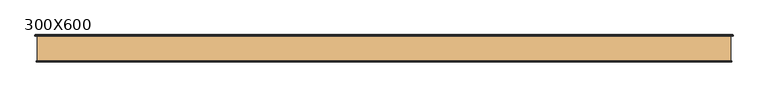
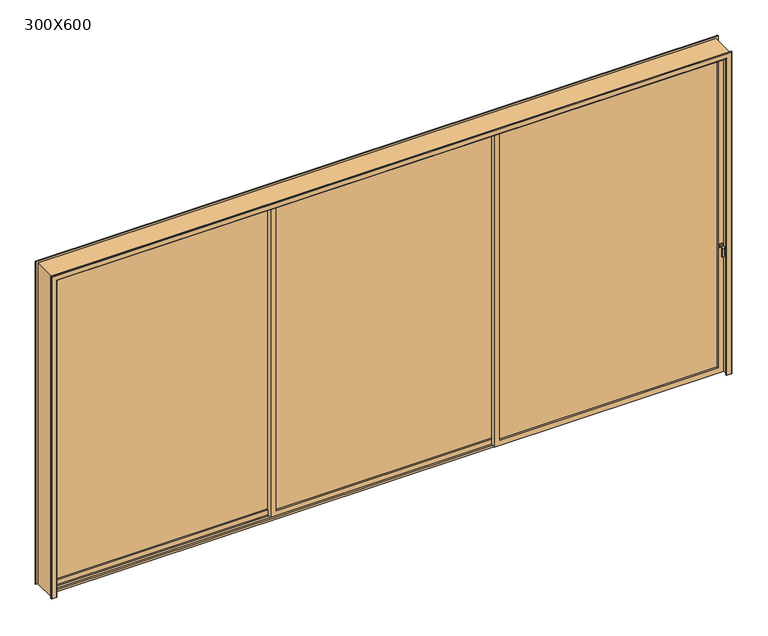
"""IFC4 building model written with IfcOpenShell, lengths in millimetres: door geometry, porta de correr uma direção : 300X600."""

from ifc_helpers import new_model, si_unit, point, frame, frame_2d, origin, place, context, project, spatial, polyline, circle_curve, ellipse_curve, trimmed, segment, composite_curve, outline, extrude, source, transform, mapped, element, save
from ifc_brep_helpers import plane_surface, cylinder_surface, advanced_brep


def door_300x600_54ae6d1d(model_context):
    return source(origin(), model_context, "Body", "SolidModel", [
        extrude(outline(composite_curve([segment(polyline([(-65.0, 1202.2993755), (-65.0, 1198.1441784), (-83.2817948, 1198.1441784)]), True, "CONTINUOUS"), segment(trimmed(circle_curve(frame_2d((-83.2817948, 1188.2817948)), 9.8623836), [point((-83.2817948, 1198.1441784))], [point((-93.1441784, 1188.2817948))], True, "CARTESIAN"), True, "CONTINUOUS"), segment(polyline([(-93.1441784, 1188.2817948), (-93.1441784, 1113.2817948), (-97.2993755, 1113.2817948), (-97.2993755, 1188.2817948)]), True, "CONTINUOUS"), segment(trimmed(circle_curve(frame_2d((-83.2817948, 1188.2817948)), 14.0175808), [point((-97.2993755, 1188.2817948))], [point((-83.2817948, 1202.2993755))], False, "CARTESIAN"), True, "CONTINUOUS"), segment(polyline([(-83.2817948, 1202.2993755), (-65.0, 1202.2993755)]), True, "CONTINUOUS")], self_intersect=False)), frame((2964.7783411, 0.0, 0.0), z_axis=(1.0, 0.0, 0.0), x_axis=(0.0, 1.0, 0.0)), (0.0, 0.0, 1.0), 21.25),
        extrude(outline(polyline([(2990.0, -65.0), (2960.0, -65.0), (2960.0, -60.0), (2990.0, -60.0), (2990.0, -65.0)])), frame((0.0, 0.0, 1185.0), z_axis=(0.0, 0.0, 1.0), x_axis=(1.0, 0.0, 0.0)), (0.0, 0.0, 1.0), 30.0),
        extrude(outline(polyline([(2950.0, -35.0), (2950.0, -45.0), (1000.0, -45.0), (1000.0, -35.0), (2950.0, -35.0)])), frame((0.0, 0.0, 50.0), z_axis=(0.0, 0.0, 1.0), x_axis=(1.0, 0.0, 0.0)), (0.0, 0.0, 1.0), 2900.0),
        extrude(outline(polyline([(3000.0, 3000.0), (3000.0, 950.0), (0.0, 950.0), (0.0, 3000.0), (3000.0, 3000.0)]), holes=[polyline([(2950.0, 2950.0), (50.0, 2950.0), (50.0, 1000.0), (2950.0, 1000.0), (2950.0, 2950.0)])]), frame((0.0, -60.0, 0.0), z_axis=(0.0, 1.0, 0.0), x_axis=(0.0, 0.0, 1.0)), (0.0, 0.0, 1.0), 40.0),
        extrude(outline(polyline([(975.0, 5.0), (975.0, -5.0), (-975.0, -5.0), (-975.0, 5.0), (975.0, 5.0)])), frame((0.0, 0.0, 50.0), z_axis=(0.0, 0.0, 1.0), x_axis=(1.0, 0.0, 0.0)), (0.0, 0.0, 1.0), 2900.0),
        extrude(outline(polyline([(3000.0, 1025.0), (3000.0, -1025.0), (0.0, -1025.0), (0.0, 1025.0), (3000.0, 1025.0)]), holes=[polyline([(2950.0, 975.0), (50.0, 975.0), (50.0, -975.0), (2950.0, -975.0), (2950.0, 975.0)])]), frame((0.0, -20.0, 0.0), z_axis=(0.0, 1.0, 0.0), x_axis=(0.0, 0.0, 1.0)), (0.0, 0.0, 1.0), 40.0),
        extrude(outline(polyline([(-1000.0, 45.0), (-1000.0, 35.0), (-2950.0, 35.0), (-2950.0, 45.0), (-1000.0, 45.0)])), frame((0.0, 0.0, 50.0), z_axis=(0.0, 0.0, 1.0), x_axis=(1.0, 0.0, 0.0)), (0.0, 0.0, 1.0), 2900.0),
        extrude(outline(polyline([(3000.0, -950.0), (3000.0, -3000.0), (0.0, -3000.0), (0.0, -950.0), (3000.0, -950.0)]), holes=[polyline([(2950.0, -1000.0), (50.0, -1000.0), (50.0, -2950.0), (2950.0, -2950.0), (2950.0, -1000.0)])]), frame((0.0, 20.0, 0.0), z_axis=(0.0, 1.0, 0.0), x_axis=(0.0, 0.0, 1.0)), (0.0, 0.0, 1.0), 40.0),
        advanced_brep(
        [(-3040.0, -110.0, 0.0), (-2990.0, -110.0, 0.0), (-2990.0, -115.0, 0.0), (-2995.0, -120.0, 0.0), (-3035.0, -120.0, 0.0), (-3040.0, -115.0, 0.0), (-3040.0, -110.0, 3040.0), (3040.0, -110.0, 3040.0), (3040.0, -110.0, 0.0), (2990.0, -110.0, 0.0), (2990.0, -110.0, 2990.0), (-2990.0, -110.0, 2990.0), (-2990.0, -115.0, 2990.0), (-2995.0, -120.0, 2995.0), (2995.0, -120.0, 2995.0), (2995.0, -120.0, 0.0), (3035.0, -120.0, 0.0), (3035.0, -120.0, 3035.0), (-3035.0, -120.0, 3035.0), (-3040.0, -115.0, 3040.0), (3040.0, -115.0, 3040.0), (3040.0, -115.0, 0.0), (2990.0, -115.0, 0.0), (2990.0, -115.0, 2990.0)],
        [
            (0, 1),
            (1, 2),
            (2, 3, circle_curve(frame((-2995.0, -115.0, 0.0), z_axis=(0.0, 0.0, -1.0), x_axis=(0.0, -1.0, 0.0)), 5.0)),
            (3, 4),
            (4, 5, circle_curve(frame((-3035.0, -115.0, 0.0), z_axis=(0.0, 0.0, -1.0), x_axis=(0.0, -1.0, 0.0)), 5.0)),
            (5, 0),
            (0, 6),
            (6, 7),
            (7, 8),
            (8, 9),
            (9, 10),
            (10, 11),
            (11, 1),
            (11, 12),
            (12, 2),
            (12, 13, ellipse_curve(frame((-2995.0, -115.0, 2995.0), z_axis=(-0.7071067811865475, 0.0, -0.7071067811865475), x_axis=(0.7071067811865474, 0.0, -0.7071067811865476)), 7.0710678, 5.0)),
            (13, 3),
            (13, 14),
            (14, 15),
            (15, 16),
            (16, 17),
            (17, 18),
            (18, 4),
            (18, 19, ellipse_curve(frame((-3035.0, -115.0, 3035.0), z_axis=(-0.7071067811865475, 0.0, -0.7071067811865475), x_axis=(0.7071067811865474, 0.0, -0.7071067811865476)), 7.0710678, 5.0)),
            (19, 5),
            (19, 6),
            (7, 20),
            (20, 21),
            (21, 8),
            (21, 16, circle_curve(frame((3035.0, -115.0, 0.0), z_axis=(0.0, 0.0, -1.0), x_axis=(0.0, -1.0, 0.0)), 5.0)),
            (15, 22, circle_curve(frame((2995.0, -115.0, 0.0), z_axis=(0.0, 0.0, -1.0), x_axis=(0.0, -1.0, 0.0)), 5.0)),
            (22, 9),
            (23, 10),
            (22, 23),
            (14, 23, ellipse_curve(frame((2995.0, -115.0, 2995.0), z_axis=(0.7071067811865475, 0.0, -0.7071067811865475), x_axis=(0.7071067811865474, 0.0, 0.7071067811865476)), 7.0710678, 5.0)),
            (20, 17, ellipse_curve(frame((3035.0, -115.0, 3035.0), z_axis=(0.7071067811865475, 0.0, -0.7071067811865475), x_axis=(0.7071067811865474, 0.0, 0.7071067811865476)), 7.0710678, 5.0)),
            (19, 20),
            (23, 12),
        ],
        [
            plane_surface(frame((-3030.0, -110.0, 0.0), z_axis=(0.0, 0.0, -1.0), x_axis=(0.0, -1.0, 0.0))),
            plane_surface(frame((-3040.0, -110.0, 0.0), z_axis=(0.0, 1.0, 0.0), x_axis=(0.0, 0.0, 1.0))),
            plane_surface(frame((-2990.0, -110.0, 0.0), z_axis=(1.0, 0.0, 0.0), x_axis=(0.0, 0.0, 1.0))),
            cylinder_surface(frame((-2995.0, -115.0, 0.0), z_axis=(0.0, 0.0, -1.0), x_axis=(0.0, -1.0, 0.0)), 5.0),
            plane_surface(frame((-2995.0, -120.0, 0.0), z_axis=(0.0, -1.0, 0.0), x_axis=(0.0, 0.0, 1.0))),
            cylinder_surface(frame((-3035.0, -115.0, 0.0), z_axis=(0.0, 0.0, -1.0), x_axis=(0.0, -1.0, 0.0)), 5.0),
            plane_surface(frame((-3040.0, -115.0, 0.0), z_axis=(-1.0, 0.0, 0.0), x_axis=(0.0, 0.0, 1.0))),
            plane_surface(frame((3040.0, -115.0, 3040.0), z_axis=(1.0, 0.0, 0.0), x_axis=(0.0, 0.0, -1.0))),
            plane_surface(frame((3030.0, -110.0, 0.0), z_axis=(0.0, 0.0, -1.0), x_axis=(0.0, -1.0, 0.0))),
            plane_surface(frame((2990.0, -110.0, 2990.0), z_axis=(-1.0, 0.0, 0.0), x_axis=(0.0, 0.0, -1.0))),
            cylinder_surface(frame((2995.0, -115.0, 3030.0), z_axis=(0.0, 0.0, 1.0), x_axis=(0.0, -1.0, 0.0)), 5.0),
            cylinder_surface(frame((3035.0, -115.0, 3030.0), z_axis=(0.0, 0.0, 1.0), x_axis=(0.0, -1.0, 0.0)), 5.0),
            plane_surface(frame((-3040.0, -115.0, 3040.0), z_axis=(0.0, 0.0, 1.0), x_axis=(1.0, 0.0, 0.0))),
            plane_surface(frame((-2990.0, -110.0, 2990.0), z_axis=(0.0, 0.0, -1.0), x_axis=(1.0, 0.0, 0.0))),
            cylinder_surface(frame((-3030.0, -115.0, 2995.0), z_axis=(-1.0, 0.0, 0.0), x_axis=(0.0, -1.0, 0.0)), 5.0),
            cylinder_surface(frame((-3030.0, -115.0, 3035.0), z_axis=(-1.0, 0.0, 0.0), x_axis=(0.0, -1.0, 0.0)), 5.0),
        ],
        [
            (0, [[1, 2, 3, 4, 5, 6]]),
            (1, [[-1, 7, 8, 9, 10, 11, 12, 13]]),
            (2, [[-2, -13, 14, 15]]),
            (3, [[-3, -15, 16, 17]]),
            (4, [[-4, -17, 18, 19, 20, 21, 22, 23]]),
            (5, [[-5, -23, 24, 25]]),
            (6, [[-6, -25, 26, -7]]),
            (7, [[27, 28, 29, -9]]),
            (8, [[-29, 30, -20, 31, 32, -10]]),
            (9, [[33, -11, -32, 34]]),
            (10, [[35, -34, -31, -19]]),
            (11, [[36, -21, -30, -28]]),
            (12, [[-26, 37, -27, -8]]),
            (13, [[-14, -12, -33, 38]]),
            (14, [[-16, -38, -35, -18]]),
            (15, [[-24, -22, -36, -37]]),
        ],
    ),
        advanced_brep(
        [(3050.0, 110.0, 0.0), (2995.0, 110.0, 0.0), (2995.0, 115.0, 0.0), (3000.0, 120.0, 0.0), (3044.1699538, 120.0, 0.0), (3050.0, 114.1699538, 0.0), (3050.0, 110.0, 3050.0), (-3050.0, 110.0, 3050.0), (-3050.0, 110.0, 0.0), (-2995.0, 110.0, 0.0), (-2995.0, 110.0, 2995.0), (2995.0, 110.0, 2995.0), (2995.0, 115.0, 2995.0), (3000.0, 120.0, 3000.0), (-3000.0, 120.0, 3000.0), (-3000.0, 120.0, 0.0), (-3044.1699538, 120.0, 0.0), (-3044.1699538, 120.0, 3044.1699538), (3044.1699538, 120.0, 3044.1699538), (3050.0, 114.1699538, 3050.0), (-3050.0, 114.1699538, 3050.0), (-3050.0, 114.1699538, 0.0), (-2995.0, 115.0, 0.0), (-2995.0, 115.0, 2995.0)],
        [
            (0, 1),
            (1, 2),
            (2, 3, circle_curve(frame((3000.0, 115.0, 0.0), z_axis=(0.0, 0.0, -1.0), x_axis=(0.0, -1.0, 0.0)), 5.0)),
            (3, 4),
            (4, 5, circle_curve(frame((3044.1699538, 114.1699538, 0.0), z_axis=(0.0, 0.0, -1.0), x_axis=(0.0, -1.0, 0.0)), 5.8300462)),
            (5, 0),
            (0, 6),
            (6, 7),
            (7, 8),
            (8, 9),
            (9, 10),
            (10, 11),
            (11, 1),
            (11, 12),
            (12, 2),
            (12, 13, ellipse_curve(frame((3000.0, 115.0, 3000.0), z_axis=(0.7071067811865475, 0.0, -0.7071067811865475), x_axis=(-0.7071067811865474, 0.0, -0.7071067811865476)), 7.0710678, 5.0)),
            (13, 3),
            (13, 14),
            (14, 15),
            (15, 16),
            (16, 17),
            (17, 18),
            (18, 4),
            (18, 19, ellipse_curve(frame((3044.1699538, 114.1699538, 3044.1699538), z_axis=(0.7071067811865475, 0.0, -0.7071067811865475), x_axis=(-0.7071067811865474, 0.0, -0.7071067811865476)), 8.2449304, 5.8300462)),
            (19, 5),
            (19, 6),
            (7, 20),
            (20, 21),
            (21, 8),
            (21, 16, circle_curve(frame((-3044.1699538, 114.1699538, 0.0), z_axis=(0.0, 0.0, -1.0), x_axis=(0.0, -1.0, 0.0)), 5.8300462)),
            (15, 22, circle_curve(frame((-3000.0, 115.0, 0.0), z_axis=(0.0, 0.0, -1.0), x_axis=(0.0, -1.0, 0.0)), 5.0)),
            (22, 9),
            (23, 10),
            (22, 23),
            (14, 23, ellipse_curve(frame((-3000.0, 115.0, 3000.0), z_axis=(-0.7071067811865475, 0.0, -0.7071067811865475), x_axis=(-0.7071067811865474, 0.0, 0.7071067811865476)), 7.0710678, 5.0)),
            (20, 17, ellipse_curve(frame((-3044.1699538, 114.1699538, 3044.1699538), z_axis=(-0.7071067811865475, 0.0, -0.7071067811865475), x_axis=(-0.7071067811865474, 0.0, 0.7071067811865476)), 8.2449304, 5.8300462)),
            (19, 20),
            (23, 12),
        ],
        [
            plane_surface(frame((3030.0, 110.0, 0.0), z_axis=(0.0, 0.0, -1.0), x_axis=(0.0, -1.0, 0.0))),
            plane_surface(frame((3050.0, 110.0, 0.0), z_axis=(0.0, -1.0, 0.0), x_axis=(0.0, 0.0, 1.0))),
            plane_surface(frame((2995.0, 110.0, 0.0), z_axis=(-1.0, 0.0, 0.0), x_axis=(0.0, 0.0, 1.0))),
            cylinder_surface(frame((3000.0, 115.0, 0.0), z_axis=(0.0, 0.0, -1.0), x_axis=(0.0, -1.0, 0.0)), 5.0),
            plane_surface(frame((3000.0, 120.0, 0.0), z_axis=(0.0, 1.0, 0.0), x_axis=(0.0, 0.0, 1.0))),
            cylinder_surface(frame((3044.1699538, 114.1699538, 0.0), z_axis=(0.0, 0.0, -1.0), x_axis=(0.0, -1.0, 0.0)), 5.8300462),
            plane_surface(frame((3050.0, 114.1699538, 0.0), z_axis=(1.0, 0.0, 0.0), x_axis=(0.0, 0.0, 1.0))),
            plane_surface(frame((-3050.0, 114.1699538, 3050.0), z_axis=(-1.0, 0.0, 0.0), x_axis=(0.0, 0.0, -1.0))),
            plane_surface(frame((-3030.0, 110.0, 0.0), z_axis=(0.0, 0.0, -1.0), x_axis=(0.0, -1.0, 0.0))),
            plane_surface(frame((-2995.0, 110.0, 2995.0), z_axis=(1.0, 0.0, 0.0), x_axis=(0.0, 0.0, -1.0))),
            cylinder_surface(frame((-3000.0, 115.0, 3030.0), z_axis=(0.0, 0.0, 1.0), x_axis=(0.0, -1.0, 0.0)), 5.0),
            cylinder_surface(frame((-3044.1699538, 114.1699538, 3030.0), z_axis=(0.0, 0.0, 1.0), x_axis=(0.0, -1.0, 0.0)), 5.8300462),
            plane_surface(frame((3050.0, 114.1699538, 3050.0), z_axis=(0.0, 0.0, 1.0), x_axis=(-1.0, 0.0, 0.0))),
            plane_surface(frame((2995.0, 110.0, 2995.0), z_axis=(0.0, 0.0, -1.0), x_axis=(-1.0, 0.0, 0.0))),
            cylinder_surface(frame((3030.0, 115.0, 3000.0), z_axis=(1.0, 0.0, 0.0), x_axis=(0.0, -1.0, 0.0)), 5.0),
            cylinder_surface(frame((3030.0, 114.1699538, 3044.1699538), z_axis=(1.0, 0.0, 0.0), x_axis=(0.0, -1.0, 0.0)), 5.8300462),
        ],
        [
            (0, [[1, 2, 3, 4, 5, 6]]),
            (1, [[-1, 7, 8, 9, 10, 11, 12, 13]]),
            (2, [[-2, -13, 14, 15]]),
            (3, [[-3, -15, 16, 17]]),
            (4, [[-4, -17, 18, 19, 20, 21, 22, 23]]),
            (5, [[-5, -23, 24, 25]]),
            (6, [[-6, -25, 26, -7]]),
            (7, [[27, 28, 29, -9]]),
            (8, [[-29, 30, -20, 31, 32, -10]]),
            (9, [[33, -11, -32, 34]]),
            (10, [[35, -34, -31, -19]]),
            (11, [[36, -21, -30, -28]]),
            (12, [[-26, 37, -27, -8]]),
            (13, [[-14, -12, -33, 38]]),
            (14, [[-16, -38, -35, -18]]),
            (15, [[-24, -22, -36, -37]]),
        ],
    ),
        extrude(outline(polyline([(0.0, 3000.0), (0.0, 3030.0), (3030.0, 3030.0), (3030.0, -3030.0), (0.0, -3030.0), (0.0, -3000.0), (3000.0, -3000.0), (3000.0, 3000.0), (0.0, 3000.0)])), frame((0.0, -110.0, 0.0), z_axis=(0.0, 1.0, 0.0), x_axis=(0.0, 0.0, 1.0)), (0.0, 0.0, 1.0), 220.0),
        extrude(outline(polyline([(-3000.0, 110.0), (3000.0, 110.0), (3000.0, -40.0), (-3000.0, -40.0), (-3000.0, 110.0)]), holes=[polyline([(-2978.5714286, 88.5714286), (-2978.5714286, 67.1428571), (2978.5714286, 67.1428571), (2978.5714286, 88.5714286), (-2978.5714286, 88.5714286)]), polyline([(2978.5714286, 45.7142857), (-2978.5714286, 45.7142857), (-2978.5714286, 24.2857143), (2978.5714286, 24.2857143), (2978.5714286, 45.7142857)]), polyline([(-2978.5714286, 2.8571429), (-2978.5714286, -18.5714286), (2978.5714286, -18.5714286), (2978.5714286, 2.8571429), (-2978.5714286, 2.8571429)])]), frame((0.0, 0.0, -15.0), z_axis=(0.0, 0.0, 1.0), x_axis=(1.0, 0.0, 0.0)), (0.0, 0.0, 1.0), 20.0),
    ])


if __name__ == "__main__":
    model = new_model("IFC4")
    model_context = context("Model", 3, world=origin())
    ifc_project = project(units=[si_unit("LENGTHUNIT", "METRE", prefix="MILLI")], contexts=[model_context])
    site = spatial("IfcSite", under=ifc_project)
    building = spatial("IfcBuilding", under=site)
    placement = place(None, origin())
    door_300x600_shape = door_300x600_54ae6d1d(model_context)
    element("IfcDoor", 1, ObjectType="porta de correr uma direção : 300X600", at=placement, inside=building, context=model_context, shape_type="MappedRepresentation", body=[
        mapped(door_300x600_shape, transform((0.0, 0.0, 0.0), x_axis=(1.0, 0.0, 0.0), y_axis=(0.0, 1.0, 0.0), z_axis=(0.0, 0.0, 1.0))),
    ])
    save(model, "model.ifc")
